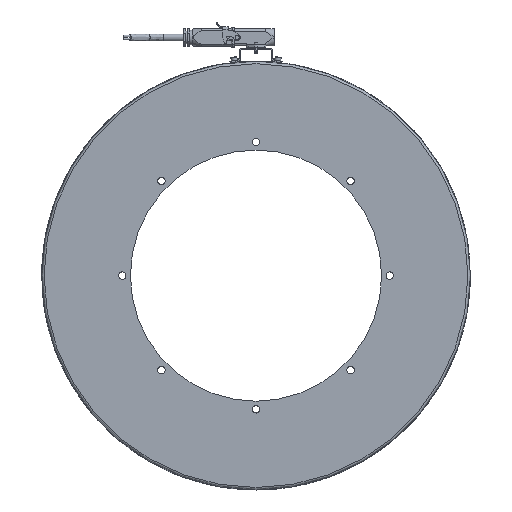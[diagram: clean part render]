
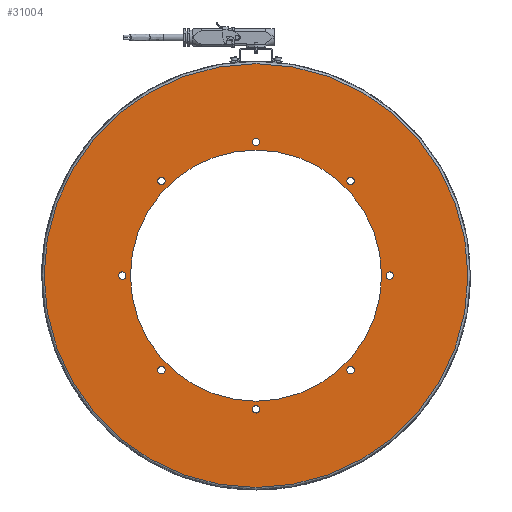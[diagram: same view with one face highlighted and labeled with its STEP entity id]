
A CAD part, left-side view. The second image highlights one B-rep face of the part: STEP entity #31004.
In plain terms, the highlighted planar face has unit normal (-1, 0, 0).
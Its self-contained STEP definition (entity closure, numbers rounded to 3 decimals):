
#326=FACE_BOUND('',#3681,.T.);
#327=FACE_BOUND('',#3682,.T.);
#328=FACE_BOUND('',#3683,.T.);
#329=FACE_BOUND('',#3684,.T.);
#330=FACE_BOUND('',#3685,.T.);
#331=FACE_BOUND('',#3686,.T.);
#332=FACE_BOUND('',#3687,.T.);
#333=FACE_BOUND('',#3688,.T.);
#334=FACE_BOUND('',#3689,.T.);
#681=PLANE('',#33449);
#2009=FACE_OUTER_BOUND('',#3680,.T.);
#3680=EDGE_LOOP('',(#22362,#22363));
#3681=EDGE_LOOP('',(#22364,#22365));
#3682=EDGE_LOOP('',(#22366,#22367));
#3683=EDGE_LOOP('',(#22368,#22369));
#3684=EDGE_LOOP('',(#22370,#22371));
#3685=EDGE_LOOP('',(#22372,#22373));
#3686=EDGE_LOOP('',(#22374,#22375));
#3687=EDGE_LOOP('',(#22376,#22377));
#3688=EDGE_LOOP('',(#22378,#22379));
#3689=EDGE_LOOP('',(#22380,#22381));
#11197=CIRCLE('',#33450,299.5);
#11198=CIRCLE('',#33451,299.5);
#11199=CIRCLE('',#33452,5.25);
#11200=CIRCLE('',#33453,5.25);
#11201=CIRCLE('',#33454,5.25);
#11202=CIRCLE('',#33455,5.25);
#11203=CIRCLE('',#33456,5.25);
#11204=CIRCLE('',#33457,5.25);
#11205=CIRCLE('',#33458,5.25);
#11206=CIRCLE('',#33459,5.25);
#11207=CIRCLE('',#33460,5.25);
#11208=CIRCLE('',#33461,5.25);
#11209=CIRCLE('',#33462,5.25);
#11210=CIRCLE('',#33463,5.25);
#11211=CIRCLE('',#33464,5.25);
#11212=CIRCLE('',#33465,5.25);
#11213=CIRCLE('',#33466,5.25);
#11214=CIRCLE('',#33467,5.25);
#11215=CIRCLE('',#33468,177.5);
#11216=CIRCLE('',#33469,177.5);
#12959=VERTEX_POINT('',#47569);
#12960=VERTEX_POINT('',#47570);
#12961=VERTEX_POINT('',#47573);
#12962=VERTEX_POINT('',#47574);
#12963=VERTEX_POINT('',#47577);
#12964=VERTEX_POINT('',#47578);
#12965=VERTEX_POINT('',#47581);
#12966=VERTEX_POINT('',#47582);
#12967=VERTEX_POINT('',#47585);
#12968=VERTEX_POINT('',#47586);
#12969=VERTEX_POINT('',#47589);
#12970=VERTEX_POINT('',#47590);
#12971=VERTEX_POINT('',#47593);
#12972=VERTEX_POINT('',#47594);
#12973=VERTEX_POINT('',#47597);
#12974=VERTEX_POINT('',#47598);
#12975=VERTEX_POINT('',#47601);
#12976=VERTEX_POINT('',#47602);
#12977=VERTEX_POINT('',#47605);
#12978=VERTEX_POINT('',#47606);
#16435=EDGE_CURVE('',#12959,#12960,#11197,.T.);
#16436=EDGE_CURVE('',#12960,#12959,#11198,.T.);
#16437=EDGE_CURVE('',#12961,#12962,#11199,.T.);
#16438=EDGE_CURVE('',#12962,#12961,#11200,.T.);
#16439=EDGE_CURVE('',#12963,#12964,#11201,.T.);
#16440=EDGE_CURVE('',#12964,#12963,#11202,.T.);
#16441=EDGE_CURVE('',#12965,#12966,#11203,.T.);
#16442=EDGE_CURVE('',#12966,#12965,#11204,.T.);
#16443=EDGE_CURVE('',#12967,#12968,#11205,.T.);
#16444=EDGE_CURVE('',#12968,#12967,#11206,.T.);
#16445=EDGE_CURVE('',#12969,#12970,#11207,.T.);
#16446=EDGE_CURVE('',#12970,#12969,#11208,.T.);
#16447=EDGE_CURVE('',#12971,#12972,#11209,.T.);
#16448=EDGE_CURVE('',#12972,#12971,#11210,.T.);
#16449=EDGE_CURVE('',#12973,#12974,#11211,.T.);
#16450=EDGE_CURVE('',#12974,#12973,#11212,.T.);
#16451=EDGE_CURVE('',#12975,#12976,#11213,.T.);
#16452=EDGE_CURVE('',#12976,#12975,#11214,.T.);
#16453=EDGE_CURVE('',#12977,#12978,#11215,.T.);
#16454=EDGE_CURVE('',#12978,#12977,#11216,.T.);
#22362=ORIENTED_EDGE('',*,*,#16435,.F.);
#22363=ORIENTED_EDGE('',*,*,#16436,.F.);
#22364=ORIENTED_EDGE('',*,*,#16437,.T.);
#22365=ORIENTED_EDGE('',*,*,#16438,.T.);
#22366=ORIENTED_EDGE('',*,*,#16439,.T.);
#22367=ORIENTED_EDGE('',*,*,#16440,.T.);
#22368=ORIENTED_EDGE('',*,*,#16441,.T.);
#22369=ORIENTED_EDGE('',*,*,#16442,.T.);
#22370=ORIENTED_EDGE('',*,*,#16443,.T.);
#22371=ORIENTED_EDGE('',*,*,#16444,.T.);
#22372=ORIENTED_EDGE('',*,*,#16445,.T.);
#22373=ORIENTED_EDGE('',*,*,#16446,.T.);
#22374=ORIENTED_EDGE('',*,*,#16447,.T.);
#22375=ORIENTED_EDGE('',*,*,#16448,.T.);
#22376=ORIENTED_EDGE('',*,*,#16449,.T.);
#22377=ORIENTED_EDGE('',*,*,#16450,.T.);
#22378=ORIENTED_EDGE('',*,*,#16451,.T.);
#22379=ORIENTED_EDGE('',*,*,#16452,.T.);
#22380=ORIENTED_EDGE('',*,*,#16453,.F.);
#22381=ORIENTED_EDGE('',*,*,#16454,.F.);
#31004=ADVANCED_FACE('',(#2009,#326,#327,#328,#329,#330,#331,#332,#333,
#334),#681,.T.);
#33449=AXIS2_PLACEMENT_3D('',#47568,#38564,#38565);
#33450=AXIS2_PLACEMENT_3D('',#47571,#38566,#38567);
#33451=AXIS2_PLACEMENT_3D('',#47572,#38568,#38569);
#33452=AXIS2_PLACEMENT_3D('',#47575,#38570,#38571);
#33453=AXIS2_PLACEMENT_3D('',#47576,#38572,#38573);
#33454=AXIS2_PLACEMENT_3D('',#47579,#38574,#38575);
#33455=AXIS2_PLACEMENT_3D('',#47580,#38576,#38577);
#33456=AXIS2_PLACEMENT_3D('',#47583,#38578,#38579);
#33457=AXIS2_PLACEMENT_3D('',#47584,#38580,#38581);
#33458=AXIS2_PLACEMENT_3D('',#47587,#38582,#38583);
#33459=AXIS2_PLACEMENT_3D('',#47588,#38584,#38585);
#33460=AXIS2_PLACEMENT_3D('',#47591,#38586,#38587);
#33461=AXIS2_PLACEMENT_3D('',#47592,#38588,#38589);
#33462=AXIS2_PLACEMENT_3D('',#47595,#38590,#38591);
#33463=AXIS2_PLACEMENT_3D('',#47596,#38592,#38593);
#33464=AXIS2_PLACEMENT_3D('',#47599,#38594,#38595);
#33465=AXIS2_PLACEMENT_3D('',#47600,#38596,#38597);
#33466=AXIS2_PLACEMENT_3D('',#47603,#38598,#38599);
#33467=AXIS2_PLACEMENT_3D('',#47604,#38600,#38601);
#33468=AXIS2_PLACEMENT_3D('',#47607,#38602,#38603);
#33469=AXIS2_PLACEMENT_3D('',#47608,#38604,#38605);
#38564=DIRECTION('center_axis',(-1.,0.,0.));
#38565=DIRECTION('ref_axis',(0.,0.,
1.));
#38566=DIRECTION('center_axis',(1.,0.,0.));
#38567=DIRECTION('ref_axis',(0.,-1.,0.));
#38568=DIRECTION('center_axis',(1.,0.,0.));
#38569=DIRECTION('ref_axis',(0.,-1.,0.));
#38570=DIRECTION('center_axis',(1.,0.,0.));
#38571=DIRECTION('ref_axis',(0.,0.,
1.));
#38572=DIRECTION('center_axis',(1.,0.,0.));
#38573=DIRECTION('ref_axis',(0.,0.,
1.));
#38574=DIRECTION('center_axis',(1.,0.,0.));
#38575=DIRECTION('ref_axis',(0.,0.,
1.));
#38576=DIRECTION('center_axis',(1.,0.,0.));
#38577=DIRECTION('ref_axis',(0.,0.,
1.));
#38578=DIRECTION('center_axis',(1.,0.,0.));
#38579=DIRECTION('ref_axis',(0.,0.,
1.));
#38580=DIRECTION('center_axis',(1.,0.,0.));
#38581=DIRECTION('ref_axis',(0.,0.,
1.));
#38582=DIRECTION('center_axis',(1.,0.,0.));
#38583=DIRECTION('ref_axis',(0.,0.,
1.));
#38584=DIRECTION('center_axis',(1.,0.,0.));
#38585=DIRECTION('ref_axis',(0.,0.,
1.));
#38586=DIRECTION('center_axis',(1.,0.,0.));
#38587=DIRECTION('ref_axis',(0.,0.,
1.));
#38588=DIRECTION('center_axis',(1.,0.,0.));
#38589=DIRECTION('ref_axis',(0.,0.,
1.));
#38590=DIRECTION('center_axis',(1.,0.,0.));
#38591=DIRECTION('ref_axis',(0.,0.,
1.));
#38592=DIRECTION('center_axis',(1.,0.,0.));
#38593=DIRECTION('ref_axis',(0.,0.,
1.));
#38594=DIRECTION('center_axis',(1.,0.,0.));
#38595=DIRECTION('ref_axis',(0.,0.,
1.));
#38596=DIRECTION('center_axis',(1.,0.,0.));
#38597=DIRECTION('ref_axis',(0.,0.,
1.));
#38598=DIRECTION('center_axis',(1.,0.,0.));
#38599=DIRECTION('ref_axis',(0.,0.,
1.));
#38600=DIRECTION('center_axis',(1.,0.,0.));
#38601=DIRECTION('ref_axis',(0.,0.,
1.));
#38602=DIRECTION('center_axis',(-1.,0.,0.));
#38603=DIRECTION('ref_axis',(0.,1.,0.));
#38604=DIRECTION('center_axis',(-1.,0.,0.));
#38605=DIRECTION('ref_axis',(0.,1.,0.));
#47568=CARTESIAN_POINT('Origin',(-39.2,240.,0.));
#47569=CARTESIAN_POINT('',(-39.2,299.5,0.));
#47570=CARTESIAN_POINT('',(-39.2,0.,-299.5));
#47571=CARTESIAN_POINT('Origin',(-39.2,0.,
0.));
#47572=CARTESIAN_POINT('Origin',(-39.2,0.,
0.));
#47573=CARTESIAN_POINT('',(-39.2,-189.,5.25));
#47574=CARTESIAN_POINT('',(-39.2,-189.,-5.25));
#47575=CARTESIAN_POINT('Origin',(-39.2,-189.,0.));
#47576=CARTESIAN_POINT('Origin',(-39.2,-189.,0.));
#47577=CARTESIAN_POINT('',(-39.2,0.,-183.75));
#47578=CARTESIAN_POINT('',(-39.2,0.,-194.25));
#47579=CARTESIAN_POINT('Origin',(-39.2,0.,
-189.));
#47580=CARTESIAN_POINT('Origin',(-39.2,0.,
-189.));
#47581=CARTESIAN_POINT('',(-39.2,189.,5.25));
#47582=CARTESIAN_POINT('',(-39.2,189.,-5.25));
#47583=CARTESIAN_POINT('Origin',(-39.2,189.,0.));
#47584=CARTESIAN_POINT('Origin',(-39.2,189.,0.));
#47585=CARTESIAN_POINT('',(-39.2,0.,194.25));
#47586=CARTESIAN_POINT('',(-39.2,0.,183.75));
#47587=CARTESIAN_POINT('Origin',(-39.2,0.,
189.));
#47588=CARTESIAN_POINT('Origin',(-39.2,0.,
189.));
#47589=CARTESIAN_POINT('',(-39.2,133.643,138.893));
#47590=CARTESIAN_POINT('',(-39.2,133.643,128.393));
#47591=CARTESIAN_POINT('Origin',(-39.2,133.643,133.643));
#47592=CARTESIAN_POINT('Origin',(-39.2,133.643,133.643));
#47593=CARTESIAN_POINT('',(-39.2,133.643,-128.393));
#47594=CARTESIAN_POINT('',(-39.2,133.643,-138.893));
#47595=CARTESIAN_POINT('Origin',(-39.2,133.643,-133.643));
#47596=CARTESIAN_POINT('Origin',(-39.2,133.643,-133.643));
#47597=CARTESIAN_POINT('',(-39.2,-133.643,-128.393));
#47598=CARTESIAN_POINT('',(-39.2,-133.643,-138.893));
#47599=CARTESIAN_POINT('Origin',(-39.2,-133.643,-133.643));
#47600=CARTESIAN_POINT('Origin',(-39.2,-133.643,-133.643));
#47601=CARTESIAN_POINT('',(-39.2,-133.643,138.893));
#47602=CARTESIAN_POINT('',(-39.2,-133.643,128.393));
#47603=CARTESIAN_POINT('Origin',(-39.2,-133.643,133.643));
#47604=CARTESIAN_POINT('Origin',(-39.2,-133.643,133.643));
#47605=CARTESIAN_POINT('',(-39.2,177.5,0.));
#47606=CARTESIAN_POINT('',(-39.2,-177.5,0.));
#47607=CARTESIAN_POINT('Origin',(-39.2,0.,
0.));
#47608=CARTESIAN_POINT('Origin',(-39.2,0.,
0.));
